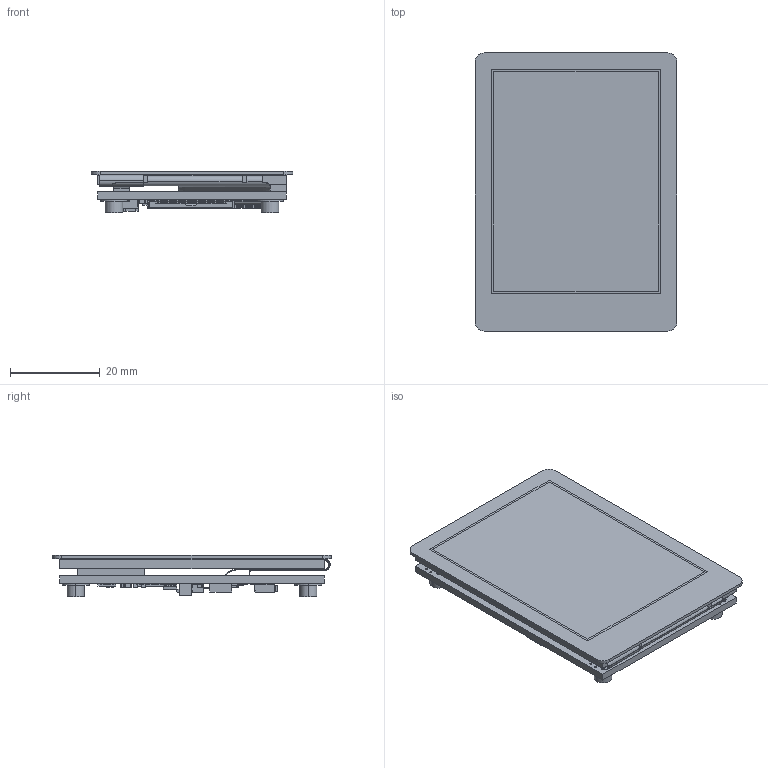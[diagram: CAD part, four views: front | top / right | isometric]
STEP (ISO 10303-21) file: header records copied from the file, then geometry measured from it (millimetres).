
FILE_DESCRIPTION (( 'STEP AP214' ), '1' );
FILE_NAME ('CFA240320E0024SC.STEP', '2025-11-06T17:22:30', ( '' ), ( '' ), 'SwSTEP 2.0', 'SolidWorks 2021', '' );
FILE_SCHEMA (( 'AUTOMOTIVE_DESIGN' ));
Length unit declared in the file: millimetre
Products named in the file (6): VHB_TapeShort; cfa_10109.step; Touch screen; CFAF240320A0-024SN; CFA240320E0024SC; CFPN_01712
Assembly tree (8 placements, depth 2):
  CFA240320E0024SC
    CFAF240320A0-024SN
    Touch screen
    cfa_10109.step
    VHB_TapeShort
    CFPN_01712  x4
Bounding box: 45 x 62 x 9.17 mm (x, y, z)
Volume: 8204.4 mm3; surface area: 22211.2 mm2
Topology: 9 solids, 226 shells, 6604 faces, 17983 edges, 11715 vertices
Faces by surface type: plane 5138, cylinder 1422, bspline 20, sphere 16, cone 8
Entity records: 224035 total; most frequent: CARTESIAN_POINT 54709, ORIENTED_EDGE 35534, DIRECTION 28340, EDGE_CURVE 17889, VERTEX_POINT 11664, LINE 9708, VECTOR 9708, AXIS2_PLACEMENT_3D 9316
